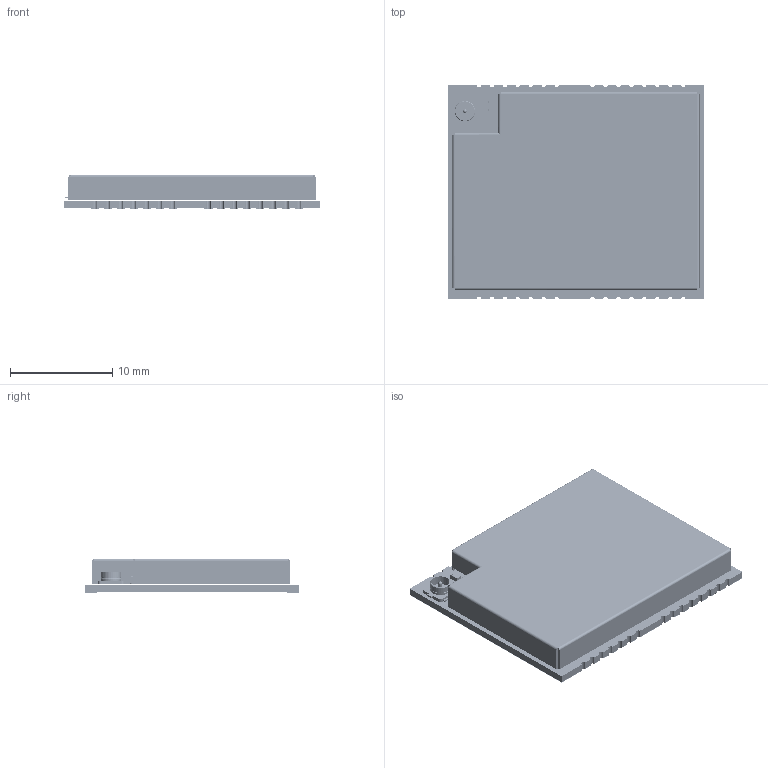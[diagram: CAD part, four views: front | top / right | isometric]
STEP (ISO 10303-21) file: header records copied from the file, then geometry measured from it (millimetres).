
FILE_DESCRIPTION(('KiCad electronic assembly'),'2;1');
FILE_NAME('EWM226-900H30S.step','2025-11-24T20:45:47',('Pcbnew'),( 'Kicad'),'Open CASCADE STEP processor 7.9','KiCad to STEP converter' ,'Unknown');
FILE_SCHEMA(('AUTOMOTIVE_DESIGN { 1 0 10303 214 1 1 1 1 }'));
Length unit declared in the file: millimetre
Products named in the file (24): EWM226-900H30S 1; C_0201_0603Metric; C_0402_1005Metric; QFN-32-1EP_4x4mm_P0.4mm_EP2.65x2.65mm; L_0402_1005Metric; kicad_embedded_0CB08B3B9598BE05148F90F2A0BE2142; L_0603_1608Metric; R_0402_1005Metric; D_SOD-882D; R_0201_0603Metric; L_1008_2520Metric; BGA-9_1.6x1.6mm_Layout3x3_P0.5mm; D_SOD-523; L_0201_0603Metric; kicad_embedded_D93662E38E1BE0A9ECC1FB44531FFEB3; SOT-89-3; EWM226-900H30S 1.73.1; SOT-363_SC-70-6; Crystal_SMD_2520-4Pin_2.5x2.0mm; SOT-23-5; 10939-V1.2_pad; 10939-V1.2_silkscreen; 10939-V1.2_soldermask; 10939-V1.2_PCB
Assembly tree (110 placements, depth 3):
  EWM226-900H30S 1
    C_0201_0603Metric  x46
    C_0402_1005Metric  x32
    QFN-32-1EP_4x4mm_P0.4mm_EP2.65x2.65mm
    L_0402_1005Metric
    kicad_embedded_0CB08B3B9598BE05148F90F2A0BE2142
    L_0603_1608Metric  x5
    R_0402_1005Metric  x3
    D_SOD-882D  x2
    R_0201_0603Metric  x4
    L_1008_2520Metric
    BGA-9_1.6x1.6mm_Layout3x3_P0.5mm
    D_SOD-523
    L_0201_0603Metric  x2
    kicad_embedded_D93662E38E1BE0A9ECC1FB44531FFEB3
    SOT-89-3
      EWM226-900H30S 1.73.1
    SOT-363_SC-70-6
    Crystal_SMD_2520-4Pin_2.5x2.0mm
    SOT-23-5
    10939-V1.2_pad
    10939-V1.2_silkscreen
    10939-V1.2_soldermask
    10939-V1.2_PCB
Bounding box: 25 x 21 x 3.37 mm (x, y, z)
Volume: 572.7 mm3; surface area: 4054.4 mm2
Topology: 550 solids, 847 shells, 7634 faces, 25262 edges, 19234 vertices
Faces by surface type: plane 5154, cylinder 2238, bspline 238, cone 3, sphere 1
Full cylindrical faces by diameter (mm): 0.15 x23, 0.4 x1, 0.5 x1, 0.7 x1, 1.8 x1, 1.92 x1, 2 x2
Entity records: 218832 total; most frequent: CARTESIAN_POINT 41780, DIRECTION 32892, ORIENTED_EDGE 30554, EDGE_CURVE 18997, VERTEX_POINT 15070, LINE 14220, VECTOR 14220, AXIS2_PLACEMENT_3D 9336
